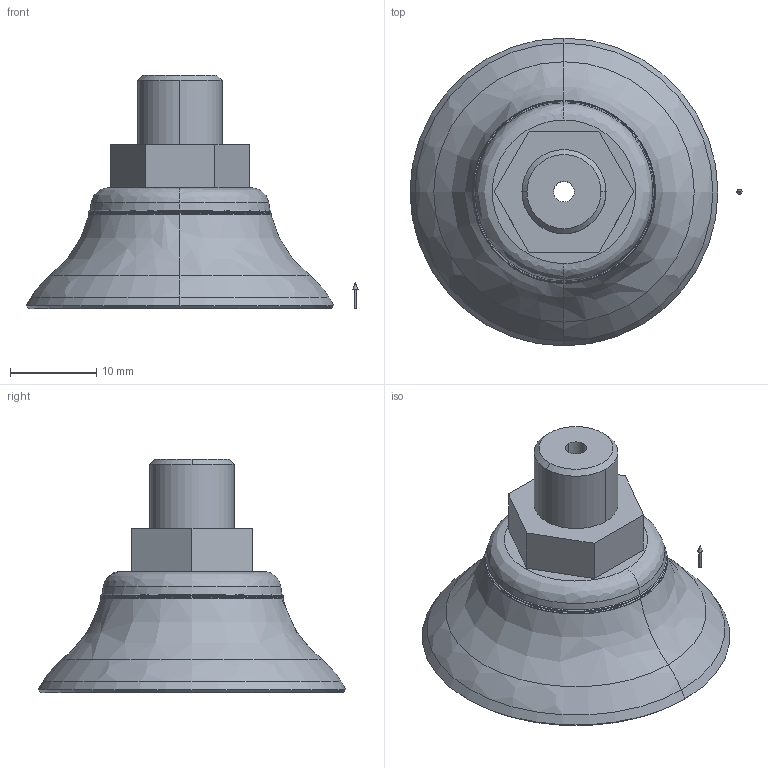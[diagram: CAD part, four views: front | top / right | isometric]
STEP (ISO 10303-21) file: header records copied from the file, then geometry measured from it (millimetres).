
FILE_DESCRIPTION (( 'STEP AP203' ), '1' );
FILE_NAME ('PFYN-50-NBR-55.STEP', '2024-03-04T03:09:25', ( '微软用户' ), ( '微软中国' ), 'SwSTEP 2.0', 'SolidWorks 2018', '' );
FILE_SCHEMA (( 'CONFIG_CONTROL_DESIGN' ));
Length unit declared in the file: millimetre
Products named in the file (3): 1; PFYN-50-NBR-55; 1_2
Assembly tree (2 placements, depth 2):
  PFYN-50-NBR-55
    1
    1_2
Bounding box: 38.42 x 35.63 x 27 mm (x, y, z)
Volume: 6544.6 mm3; surface area: 3525.9 mm2
Topology: 2 solids, 2 shells, 54 faces, 115 edges, 68 vertices
Faces by surface type: bspline 20, plane 14, cone 10, cylinder 10
Entity records: 2161 total; most frequent: CARTESIAN_POINT 733, DIRECTION 256, ORIENTED_EDGE 226, EDGE_CURVE 113, AXIS2_PLACEMENT_3D 109, CIRCLE 70, VERTEX_POINT 68, EDGE_LOOP 61
